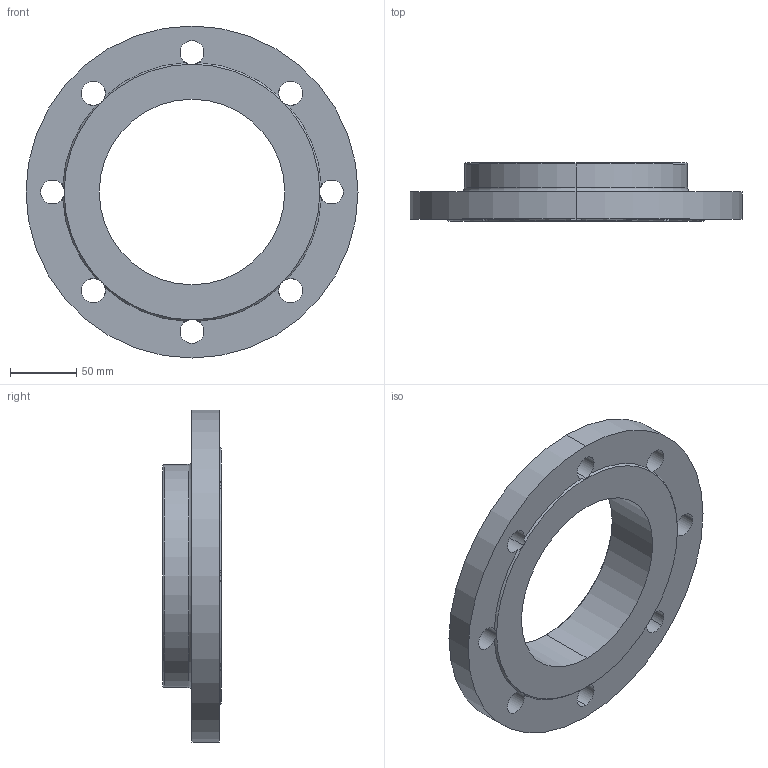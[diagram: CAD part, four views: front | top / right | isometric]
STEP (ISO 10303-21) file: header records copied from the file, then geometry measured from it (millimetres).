
FILE_DESCRIPTION (( 'STEP AP203' ), '1' );
FILE_NAME ('3D_R193_PN10-40_DN125_176624820.STEP', '2024-07-09T14:24:41', ( '' ), ( '' ), 'SwSTEP 2.0', 'SolidWorks 2024', '' );
FILE_SCHEMA (( 'CONFIG_CONTROL_DESIGN' ));
Length unit declared in the file: millimetre
Products named in the file (1): 3D_R193_PN10-40_DN125_176624820
Bounding box: 250 x 44 x 250 mm (x, y, z)
Volume: 822666.5 mm3; surface area: 119060.7 mm2
Topology: 1 solids, 1 shells, 40 faces, 126 edges, 82 vertices
Faces by surface type: cylinder 22, cone 10, torus 4, plane 4
Entity records: 1609 total; most frequent: CARTESIAN_POINT 329, DIRECTION 278, ORIENTED_EDGE 252, AXIS2_PLACEMENT_3D 127, EDGE_CURVE 126, CIRCLE 86, VERTEX_POINT 82, EDGE_LOOP 52
